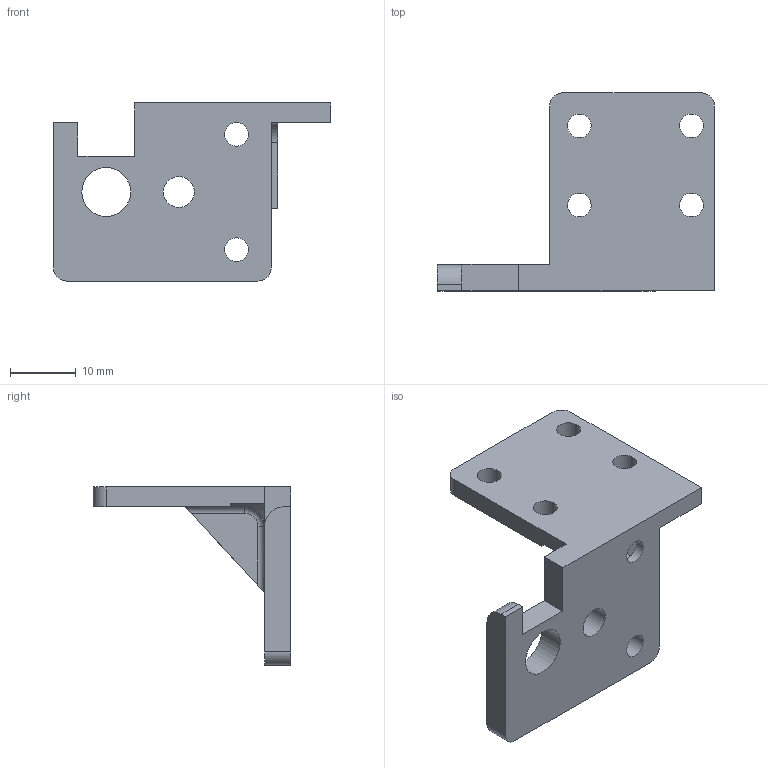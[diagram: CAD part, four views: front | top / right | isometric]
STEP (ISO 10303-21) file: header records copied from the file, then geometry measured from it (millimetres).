
FILE_DESCRIPTION(/* description */ ('STEP AP242 Edition 2','CAx-IF Rec.Pracs.---Representation and Presentation of Product Manufacturing Information (PMI)---4.0---2014-10-13','CAx-IF Rec.Pracs.---3D Tessellated Geometry---0.4---2014-09-14','2;1','CAx-IF Rec.Pracs.---User Defined Attributes---1.5---2016-08-15'),/* implementation_level */ '2;1');
FILE_NAME(/* name */ 'Chassis No Suspension - bracket_RR',/* time_stamp */ '2026-10-25T14:46:20Z',/* author */ (''),/* organization */ (''),/* preprocessor_version */ 'ST-DEVELOPER v20',/* originating_system */ 'ONSHAPE BY PTC INC, 1.222',/* authorisation */ ' ');
FILE_SCHEMA (('AP242_MANAGED_MODEL_BASED_3D_ENGINEERING_MIM_LF { 1 0 10303 442 3 1 4 }'));
Length unit declared in the file: metre
Products named in the file (1): bracket_RR
Bounding box: 42 x 30 x 27 mm (x, y, z)
Volume: 4968.9 mm3; surface area: 4017.4 mm2
Topology: 1 solids, 1 shells, 48 faces, 135 edges, 89 vertices
Faces by surface type: plane 27, cylinder 20, torus 1
Full cylindrical faces by diameter (mm): 3.6 x6, 4.7 x1, 7.4 x1
Entity records: 1614 total; most frequent: CARTESIAN_POINT 290, ORIENTED_EDGE 270, DIRECTION 267, EDGE_CURVE 135, LINE 91, VECTOR 91, VERTEX_POINT 89, AXIS2_PLACEMENT_3D 88
